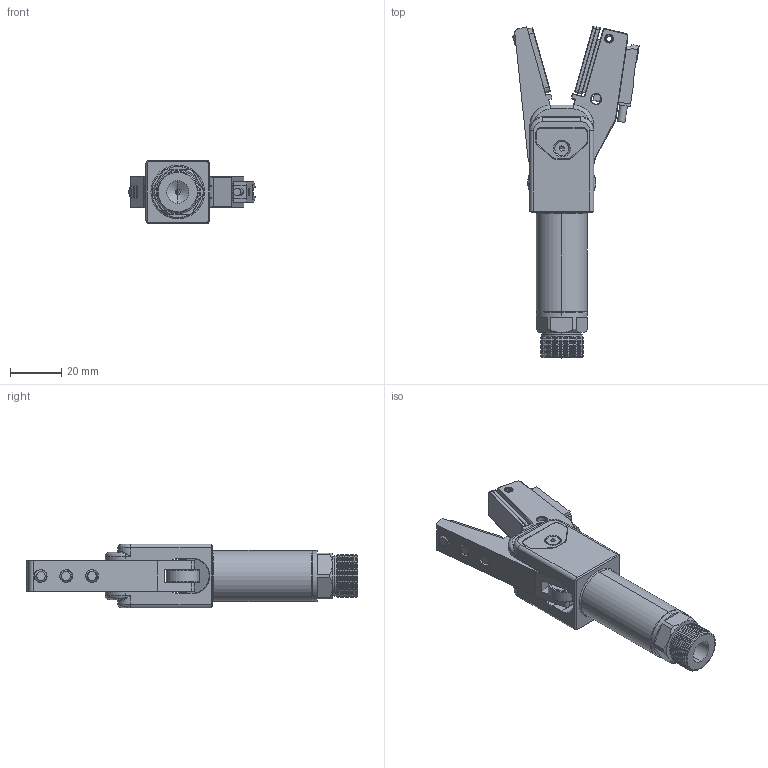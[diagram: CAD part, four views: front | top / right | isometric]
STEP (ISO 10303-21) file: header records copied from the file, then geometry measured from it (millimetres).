
FILE_DESCRIPTION (( 'STEP AP203' ), '1' );
FILE_NAME ('GRT20D-CP.STEP', '2024-08-09T02:20:10', ( '微软用户' ), ( '微软中国' ), 'SwSTEP 2.0', 'SolidWorks 2018', '' );
FILE_SCHEMA (( 'CONFIG_CONTROL_DESIGN' ));
Length unit declared in the file: millimetre
Products named in the file (1): GRT20D-CP
Bounding box: 49.44 x 130.01 x 25 mm (x, y, z)
Volume: 46350.3 mm3; surface area: 22730.2 mm2
Topology: 4 solids, 13 shells, 709 faces, 1713 edges, 1053 vertices
Faces by surface type: plane 278, cylinder 218, cone 163, bspline 50
Entity records: 22808 total; most frequent: CARTESIAN_POINT 6184, DIRECTION 3547, ORIENTED_EDGE 3410, EDGE_CURVE 1705, AXIS2_PLACEMENT_3D 1320, VERTEX_POINT 1053, VECTOR 907, LINE 907
